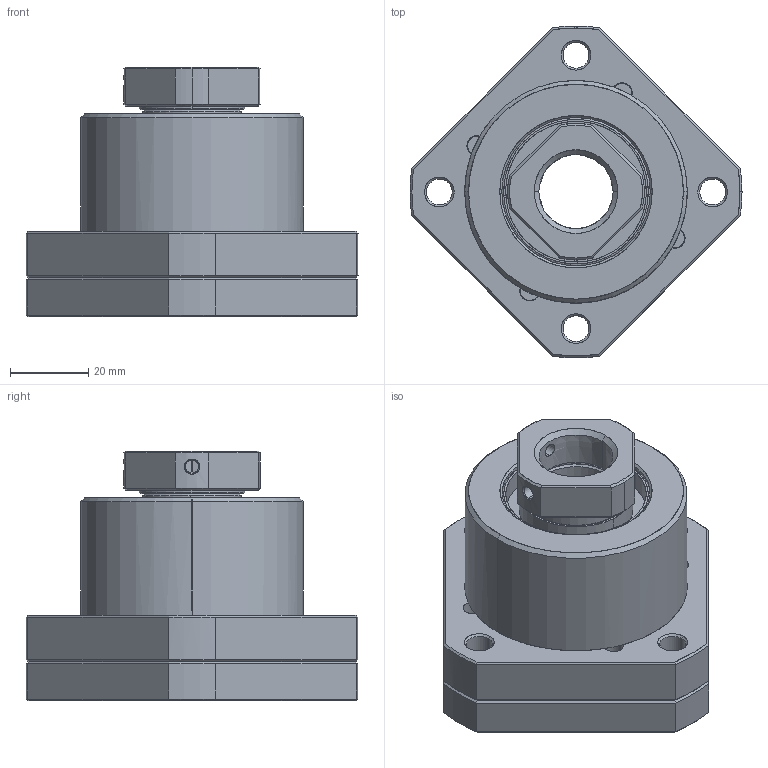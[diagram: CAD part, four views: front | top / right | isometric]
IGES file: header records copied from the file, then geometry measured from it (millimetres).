
Start section: SolidWorks IGES file using analytic representation for surfaces
Bounding box: 85 x 84.9 x 64 mm (x, y, z)
Surface area: 76375.6 mm2 (no closed solid volume)
Topology: 0 solids, 0 shells, 678 faces, 12878 edges, 12804 vertices
Faces by surface type: revolution 424, bspline 254
